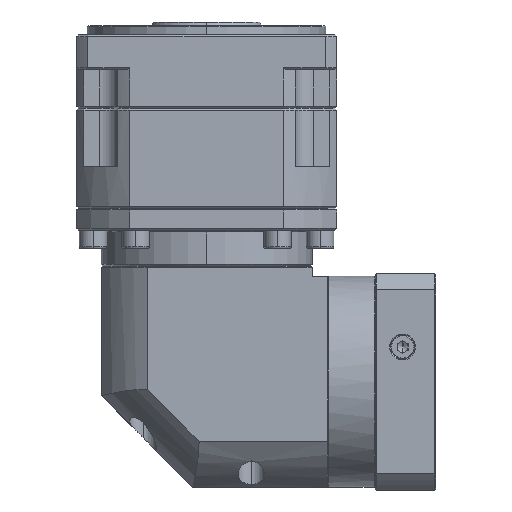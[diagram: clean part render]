
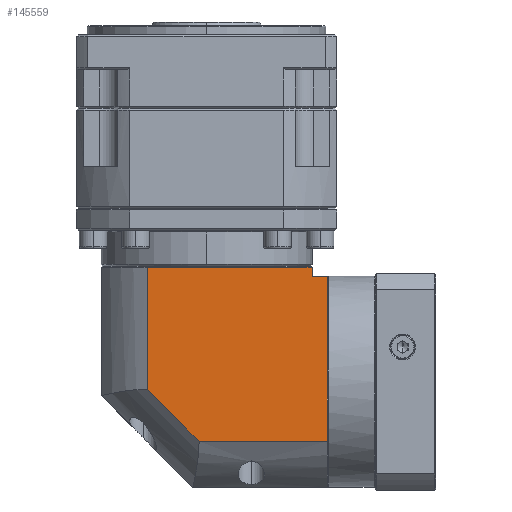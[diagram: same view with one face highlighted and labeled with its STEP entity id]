
A CAD part, left-side view. The second image highlights one B-rep face of the part: STEP entity #145559.
In plain terms, the highlighted planar face has unit normal (-1, 0, 0).
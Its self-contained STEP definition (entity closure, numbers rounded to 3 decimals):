
#2979 = VECTOR ( 'NONE', #82154, 1000. ) ;
#6130 = EDGE_LOOP ( 'NONE', ( #43699, #148844, #132999, #66423, #90216, #144667, #113640 ) ) ;
#7124 = LINE ( 'NONE', #155884, #130918 ) ;
#11582 = DIRECTION ( 'NONE',  ( 0., 0., 1. ) ) ;
#17834 = DIRECTION ( 'NONE',  ( 0., 0., 1. ) ) ;
#32980 = VERTEX_POINT ( 'NONE', #93742 ) ;
#35819 = LINE ( 'NONE', #110676, #112730 ) ;
#37433 = VERTEX_POINT ( 'NONE', #135372 ) ;
#42080 = CARTESIAN_POINT ( 'NONE',  ( -228.158, -40.821, -31.7 ) ) ;
#42675 = DIRECTION ( 'NONE',  ( 0., 1., 0. ) ) ;
#43699 = ORIENTED_EDGE ( 'NONE', *, *, #108694, .F. ) ;
#55656 = FACE_OUTER_BOUND ( 'NONE', #6130, .T. ) ;
#62576 = DIRECTION ( 'NONE',  ( 0., 1., 0. ) ) ;
#62986 = EDGE_CURVE ( 'NONE', #109231, #32980, #7124, .T. ) ;
#66423 = ORIENTED_EDGE ( 'NONE', *, *, #62986, .F. ) ;
#71205 = LINE ( 'NONE', #112751, #84106 ) ;
#76921 = CARTESIAN_POINT ( 'NONE',  ( -228.158, 12.617, -31.7 ) ) ;
#81733 = CARTESIAN_POINT ( 'NONE',  ( -228.158, -110.783, 58.2 ) ) ;
#82154 = DIRECTION ( 'NONE',  ( 0., 0.707, 0.707 ) ) ;
#84106 = VECTOR ( 'NONE', #17834, 1000. ) ;
#87975 = DIRECTION ( 'NONE',  ( 0., -1., 0. ) ) ;
#90216 = ORIENTED_EDGE ( 'NONE', *, *, #171887, .T. ) ;
#93742 = CARTESIAN_POINT ( 'NONE',  ( -228.158, -110.783, -31.7 ) ) ;
#98487 = CARTESIAN_POINT ( 'NONE',  ( -228.158, -12.483, 63.2 ) ) ;
#99131 = LINE ( 'NONE', #42080, #2979 ) ;
#102781 = VERTEX_POINT ( 'NONE', #158996 ) ;
#106495 = CARTESIAN_POINT ( 'NONE',  ( -228.158, -102.383, -56.8 ) ) ;
#108676 = VERTEX_POINT ( 'NONE', #98487 ) ;
#108694 = EDGE_CURVE ( 'NONE', #102781, #108676, #71205, .T. ) ;
#109231 = VERTEX_POINT ( 'NONE', #81733 ) ;
#109412 = VECTOR ( 'NONE', #176472, 1000. ) ;
#110676 = CARTESIAN_POINT ( 'NONE',  ( -228.158, -102.383, 58.2 ) ) ;
#112730 = VECTOR ( 'NONE', #42675, 1000. ) ;
#112751 = CARTESIAN_POINT ( 'NONE',  ( -228.158, -12.483, 69.7 ) ) ;
#113640 = ORIENTED_EDGE ( 'NONE', *, *, #165672, .F. ) ;
#115906 = VERTEX_POINT ( 'NONE', #147430 ) ;
#120592 = VERTEX_POINT ( 'NONE', #136067 ) ;
#120766 = VECTOR ( 'NONE', #11582, 1000. ) ;
#127787 = EDGE_CURVE ( 'NONE', #120592, #102781, #99131, .T. ) ;
#130918 = VECTOR ( 'NONE', #146353, 1000. ) ;
#132999 = ORIENTED_EDGE ( 'NONE', *, *, #156257, .F. ) ;
#133829 = LINE ( 'NONE', #155809, #140171 ) ;
#135372 = CARTESIAN_POINT ( 'NONE',  ( -228.158, -102.383, 58.2 ) ) ;
#136067 = CARTESIAN_POINT ( 'NONE',  ( -228.158, -40.821, -31.7 ) ) ;
#140171 = VECTOR ( 'NONE', #87975, 1000. ) ;
#143430 = LINE ( 'NONE', #76921, #109412 ) ;
#144667 = ORIENTED_EDGE ( 'NONE', *, *, #158602, .T. ) ;
#145559 = ADVANCED_FACE ( 'NONE', ( #55656 ), #172246, .F. ) ;
#146353 = DIRECTION ( 'NONE',  ( 0., 0., -1. ) ) ;
#147430 = CARTESIAN_POINT ( 'NONE',  ( -228.158, -102.383, 63.2 ) ) ;
#148844 = ORIENTED_EDGE ( 'NONE', *, *, #127787, .F. ) ;
#155218 = AXIS2_PLACEMENT_3D ( 'NONE', #156768, #157339, #62576 ) ;
#155809 = CARTESIAN_POINT ( 'NONE',  ( -228.158, 12.617, 63.2 ) ) ;
#155884 = CARTESIAN_POINT ( 'NONE',  ( -228.158, -110.783, 69.7 ) ) ;
#156257 = EDGE_CURVE ( 'NONE', #32980, #120592, #143430, .T. ) ;
#156768 = CARTESIAN_POINT ( 'NONE',  ( -228.158, 12.617, 69.7 ) ) ;
#157339 = DIRECTION ( 'NONE',  ( 1., 0., 0. ) ) ;
#158602 = EDGE_CURVE ( 'NONE', #37433, #115906, #161276, .T. ) ;
#158996 = CARTESIAN_POINT ( 'NONE',  ( -228.158, -12.483, -3.361 ) ) ;
#161276 = LINE ( 'NONE', #106495, #120766 ) ;
#165672 = EDGE_CURVE ( 'NONE', #108676, #115906, #133829, .T. ) ;
#171887 = EDGE_CURVE ( 'NONE', #109231, #37433, #35819, .T. ) ;
#172246 = PLANE ( 'NONE',  #155218 ) ;
#176472 = DIRECTION ( 'NONE',  ( 0., 1., 0. ) ) ;
